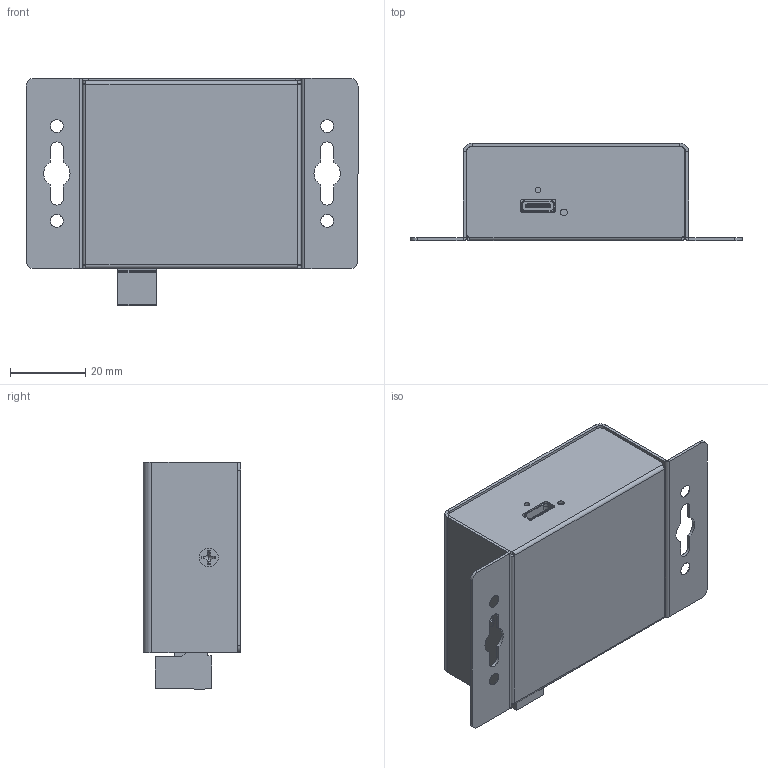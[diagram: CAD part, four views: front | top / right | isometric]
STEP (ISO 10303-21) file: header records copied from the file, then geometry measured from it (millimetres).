
FILE_DESCRIPTION(/* description */ (''),/* implementation_level */ '2;1');
FILE_NAME(/* name */ 'CG-PD82HVV_Model3D_JWV1.step',/* time_stamp */ '2023-03-03T12:31:08-05:00',/* author */ (''),/* organization */ (''),/* preprocessor_version */ 'ST-DEVELOPER v19.2',/* originating_system */ 'Autodesk Translation Framework v11.17.0.187',/* authorisation */ '');
FILE_SCHEMA (('AUTOMOTIVE_DESIGN { 1 0 10303 214 3 1 1 }'));
Length unit declared in the file: millimetre
Products named in the file (9): CG-PD60PPS_screwlock; Case; Base; C-type Usb v3; TypeC(12); M3X0.5 China 120ang METRIC 18-8 SS FLAT HEAD PHIL MACHINE SCREW v2 (1
); M3X0.5 China 120ang METRIC 18-8 SS FLAT HEAD PHIL MACHINE SCREW v2 (1
) (1); Conector 2dbl short dinkle_2esdsm-02p v1; Phoenix connector EDZ950/XX TERMINAL BLOCK PLUGGABLE PLUG v6
Assembly tree (8 placements, depth 4):
  CG-PD60PPS_screwlock
    Case
    Base
      C-type Usb v3
        TypeC(12)
      M3X0.5 China 120ang METRIC 18-8 SS FLAT HEAD PHIL MACHINE SCREW v2 (1
)
        M3X0.5 China 120ang METRIC 18-8 SS FLAT HEAD PHIL MACHINE SCREW v2 (1
) (1)
      Conector 2dbl short dinkle_2esdsm-02p v1
      Phoenix connector EDZ950/XX TERMINAL BLOCK PLUGGABLE PLUG v6
Bounding box: 88.2 x 25.9 x 60.32 mm (x, y, z)
Volume: 13707.3 mm3; surface area: 31223.7 mm2
Topology: 7 solids, 7 shells, 1002 faces, 2706 edges, 1748 vertices
Faces by surface type: plane 691, cylinder 239, cone 48, bspline 14, sphere 6, torus 4
Full cylindrical faces by diameter (mm): 0.5 x2, 1.471 x1, 1.6 x2, 1.784 x1, 2.529 x2, 3 x2, 3.86 x2, 5.3 x4
Entity records: 33736 total; most frequent: CARTESIAN_POINT 7819, ORIENTED_EDGE 5404, DIRECTION 5161, EDGE_CURVE 2702, LINE 2021, VECTOR 2021, VERTEX_POINT 1750, AXIS2_PLACEMENT_3D 1570
